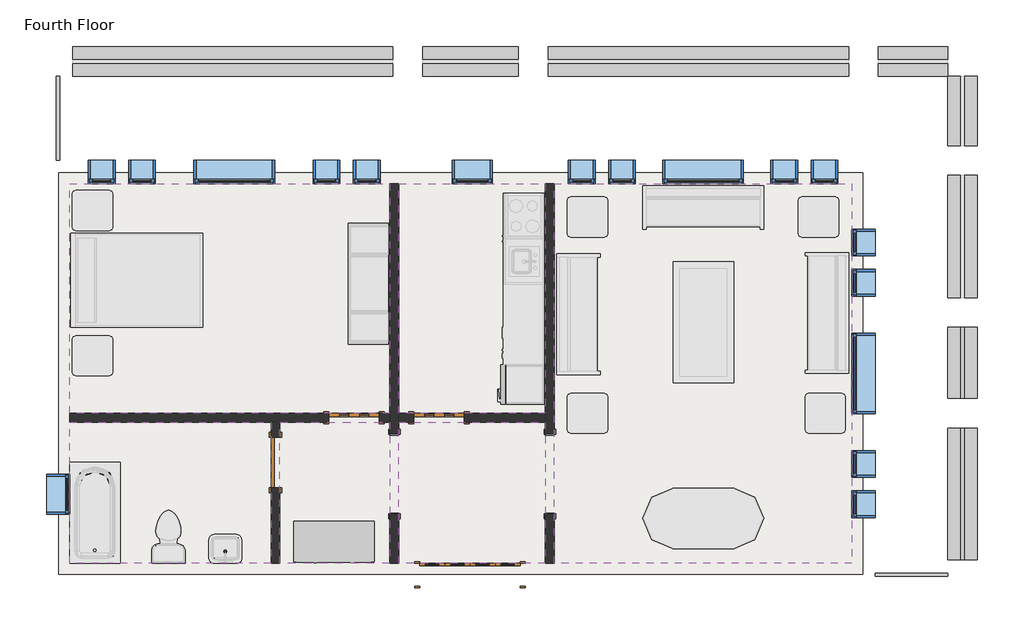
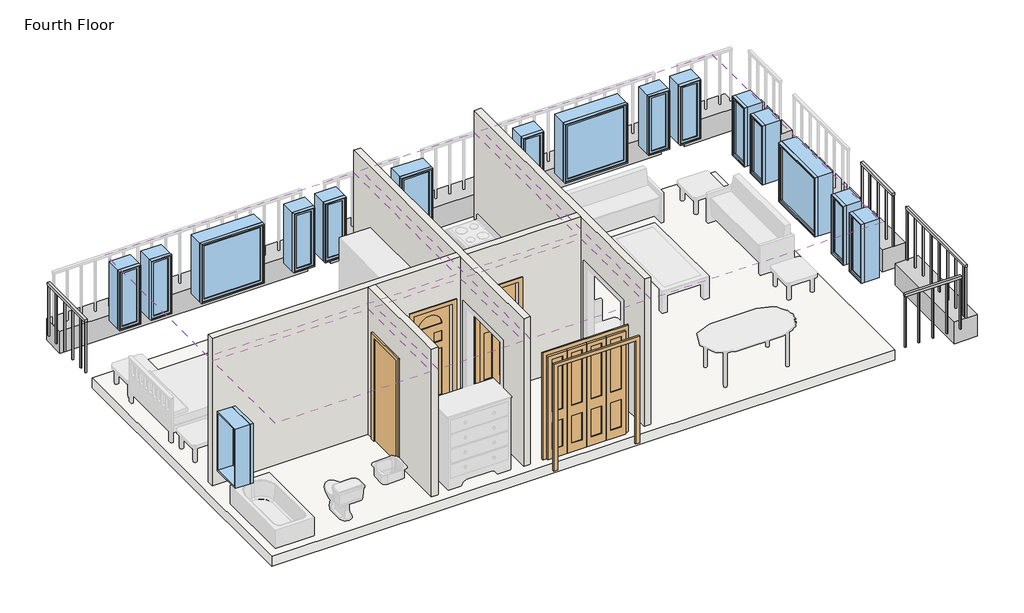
# One storey, part 1 of 2: 17 windows, 6 coverings, 4 doors, 4 railings, 4 walls, 2 beams, 1 slab.
"""IFC4 building model written with IfcOpenShell, lengths in millimetres."""

from ifc_helpers import new_model, si_unit, frame, origin, place, context, project, spatial, polyline, outline, extrude, faceted_brep, transform, mapped, element, save
from components import m_bifold_4_panel_1525_x_2134mm_1ddae71f, m_single_decorative_2_0762_x_2134mm_0d0af7cb, m_single_decorative_2_0762_x_2134mm_2fe67c8e, m_single_flush_0762_x_2134mm_0d89e411, m_fixed_0406_x_1220mm_57fee329, m_fixed_0406_x_1220mm_85c28f40, m_fixed_0610_x_1220mm_2c28ef1d, m_fixed_1220_x_1220mm_e08ff7af

model = new_model("IFC4")

# Units and contexts
model_context = context("Model", 3, world=origin())
ifc_project = project(units=[si_unit("LENGTHUNIT", "METRE", prefix="MILLI")], contexts=[model_context])

# Site, building, storey
site = spatial("IfcSite", under=ifc_project)
building = spatial("IfcBuilding", under=site)
storey = spatial("IfcBuildingStorey", under=building, Name="Fourth Floor", Elevation=9144.0)

# Beams
placement = place(None, origin())
element("IfcBeam", 1, ObjectType="M_Concrete-Rectangular Beam : 450 x 450", at=placement, inside=storey, context=model_context, shape_type="SweptSolid", body=[
    extrude(outline(polyline([(-1643.3416203, 4481.1188386), (-1643.3416203, 4031.1188386), (-2693.3416203, 4031.1188386), (-2693.3416203, 4481.1188386), (-1643.3416203, 4481.1188386)])), frame((0.0, 0.0, 8694.0), z_axis=(0.0, 0.0, 1.0), x_axis=(1.0, 0.0, 0.0)), (0.0, 0.0, 1.0), 450.0),
    extrude(outline(polyline([(-14885.3416203, 4031.1188386), (-14885.3416203, 4481.1188386), (-10043.3416203, 4481.1188386), (-10043.3416203, 4031.1188386), (-14885.3416203, 4031.1188386)])), frame((0.0, 0.0, 8694.0), z_axis=(0.0, 0.0, 1.0), x_axis=(1.0, 0.0, 0.0)), (0.0, 0.0, 1.0), 450.0),
    extrude(outline(polyline([(-3143.3416203, 4481.1188386), (-3143.3416203, 4031.1188386), (-7693.3416203, 4031.1188386), (-7693.3416203, 4481.1188386), (-3143.3416203, 4481.1188386)])), frame((0.0, 0.0, 8694.0), z_axis=(0.0, 0.0, 1.0), x_axis=(1.0, 0.0, 0.0)), (0.0, 0.0, 1.0), 450.0),
    extrude(outline(polyline([(-8143.3416203, 4481.1188386), (-8143.3416203, 4031.1188386), (-9593.3416203, 4031.1188386), (-9593.3416203, 4481.1188386), (-8143.3416203, 4481.1188386)])), frame((0.0, 0.0, 8694.0), z_axis=(0.0, 0.0, 1.0), x_axis=(1.0, 0.0, 0.0)), (0.0, 0.0, 1.0), 450.0),
])
element("IfcBeam", 2, ObjectType="M_Concrete-Rectangular Beam : 450 x 450", at=placement, inside=storey, context=model_context, shape_type="SweptSolid", body=[
    extrude(outline(polyline([(-1643.3416203, 4031.1188386), (-1193.3416203, 4031.1188386), (-1193.3416203, 2981.1188386), (-1643.3416203, 2981.1188386), (-1643.3416203, 4031.1188386)])), frame((0.0, 0.0, 8694.0), z_axis=(0.0, 0.0, 1.0), x_axis=(1.0, 0.0, 0.0)), (0.0, 0.0, 1.0), 450.0),
    extrude(outline(polyline([(-1193.3416203, -3289.8811614), (-1643.3416203, -3289.8811614), (-1643.3416203, -1295.3811614), (-1193.3416203, -1295.3811614), (-1193.3416203, -3289.8811614)])), frame((0.0, 0.0, 8694.0), z_axis=(0.0, 0.0, 1.0), x_axis=(1.0, 0.0, 0.0)), (0.0, 0.0, 1.0), 450.0),
    extrude(outline(polyline([(-1643.3416203, 2531.1188386), (-1193.3416203, 2531.1188386), (-1193.3416203, 681.1188386), (-1643.3416203, 681.1188386), (-1643.3416203, 2531.1188386)])), frame((0.0, 0.0, 8694.0), z_axis=(0.0, 0.0, 1.0), x_axis=(1.0, 0.0, 0.0)), (0.0, 0.0, 1.0), 450.0),
    extrude(outline(polyline([(-1643.3416203, 231.1188386), (-1193.3416203, 231.1188386), (-1193.3416203, -845.3811614), (-1643.3416203, -845.3811614), (-1643.3416203, 231.1188386)])), frame((0.0, 0.0, 8694.0), z_axis=(0.0, 0.0, 1.0), x_axis=(1.0, 0.0, 0.0)), (0.0, 0.0, 1.0), 450.0),
])

# Coverings
element("IfcCovering", 3, ObjectType="Plain", at=placement, inside=storey, context=model_context, shape_type="SweptSolid", body=[
    extrude(outline(polyline([(-14935.3416203, 2406.1188386), (-10086.8416203, 2406.1188386), (-10086.8416203, -1070.3811614), (-14935.3416203, -1070.3811614), (-14935.3416203, 2406.1188386)])), frame((0.0, 0.0, 11734.0), z_axis=(0.0, 0.0, 1.0), x_axis=(1.0, 0.0, 0.0)), (0.0, 0.0, 1.0), 57.0),
])
element("IfcCovering", 4, ObjectType="Plain", at=placement, inside=storey, context=model_context, shape_type="SweptSolid", body=[
    extrude(outline(polyline([(-9951.3416203, -1070.3811614), (-9951.3416203, 2406.1188386), (-7733.0916203, 2406.1188386), (-7733.0916203, -1070.3811614), (-9951.3416203, -1070.3811614)])), frame((0.0, 0.0, 11734.0), z_axis=(0.0, 0.0, 1.0), x_axis=(1.0, 0.0, 0.0)), (0.0, 0.0, 1.0), 57.0),
])
element("IfcCovering", 5, ObjectType="Plain", at=placement, inside=storey, context=model_context, shape_type="SweptSolid", body=[
    extrude(outline(polyline([(-7597.5916203, -3339.8811614), (-7597.5916203, 2406.1188386), (-3093.3416203, 2406.1188386), (-3093.3416203, -3339.8811614), (-7597.5916203, -3339.8811614)])), frame((0.0, 0.0, 11734.0), z_axis=(0.0, 0.0, 1.0), x_axis=(1.0, 0.0, 0.0)), (0.0, 0.0, 1.0), 57.0),
])
element("IfcCovering", 6, ObjectType="Plain", at=placement, inside=storey, context=model_context, shape_type="SweptSolid", body=[
    extrude(outline(polyline([(-7733.0916203, -3339.8811614), (-9951.3416203, -3339.8811614), (-9951.3416203, -1205.8811614), (-7733.0916203, -1205.8811614), (-7733.0916203, -3339.8811614)])), frame((0.0, 0.0, 11734.0), z_axis=(0.0, 0.0, 1.0), x_axis=(1.0, 0.0, 0.0)), (0.0, 0.0, 1.0), 57.0),
])
element("IfcCovering", 7, ObjectType="Plain", at=placement, inside=storey, context=model_context, shape_type="SweptSolid", body=[
    extrude(outline(polyline([(-11887.3416203, -1205.8811614), (-11887.3416203, -3339.8811614), (-14935.3416203, -3339.8811614), (-14935.3416203, -1205.8811614), (-11887.3416203, -1205.8811614)])), frame((0.0, 0.0, 11734.0), z_axis=(0.0, 0.0, 1.0), x_axis=(1.0, 0.0, 0.0)), (0.0, 0.0, 1.0), 57.0),
])
element("IfcCovering", 8, ObjectType="Plain", at=placement, inside=storey, context=model_context, shape_type="SweptSolid", body=[
    extrude(outline(polyline([(-10086.8416203, -3339.8811614), (-11751.8416203, -3339.8811614), (-11751.8416203, -1205.8811614), (-10086.8416203, -1205.8811614), (-10086.8416203, -3339.8811614)])), frame((0.0, 0.0, 11734.0), z_axis=(0.0, 0.0, 1.0), x_axis=(1.0, 0.0, 0.0)), (0.0, 0.0, 1.0), 57.0),
])

# Doors
m_bifold_4_panel_1525_x_2134mm_shape = m_bifold_4_panel_1525_x_2134mm_1ddae71f(model_context)
element("IfcDoor", 9, ObjectType="M_Bifold-4 Panel : 1525 x 2134mm", at=placement, inside=storey, context=model_context, shape_type="MappedRepresentation", body=[
    mapped(m_bifold_4_panel_1525_x_2134mm_shape, transform((-8876.0916203, -3514.8811614, 9144.0), x_axis=(1.0, 0.0, 0.0), y_axis=(0.0, 1.0, 0.0), z_axis=(0.0, 0.0, 1.0))),
])
m_single_decorative_2_0762_x_2134mm_shape = m_single_decorative_2_0762_x_2134mm_0d0af7cb(model_context)
element("IfcDoor", 10, ObjectType="M_Single-Decorative 2 : 0762 x 2134mm", at=placement, inside=storey, context=model_context, shape_type="MappedRepresentation", body=[
    mapped(m_single_decorative_2_0762_x_2134mm_shape, transform((-9342.3416203, -1138.1311614, 9144.0), x_axis=(-1.0, 0.0, 0.0), y_axis=(0.0, -1.0, 0.0), z_axis=(0.0, 0.0, 1.0))),
])
m_single_decorative_2_0762_x_2134mm_2_shape = m_single_decorative_2_0762_x_2134mm_2fe67c8e(model_context)
element("IfcDoor", 11, ObjectType="M_Single-Decorative 2 : 0762 x 2134mm", at=placement, inside=storey, context=model_context, shape_type="MappedRepresentation", body=[
    mapped(m_single_decorative_2_0762_x_2134mm_2_shape, transform((-10629.0916203, -1138.1311614, 9144.0), x_axis=(1.0, 0.0, 0.0), y_axis=(0.0, 1.0, 0.0), z_axis=(0.0, 0.0, 1.0))),
])
m_single_flush_0762_x_2134mm_shape = m_single_flush_0762_x_2134mm_0d89e411(model_context)
element("IfcDoor", 12, ObjectType="M_Single-Flush : 0762 x 2134mm", at=placement, inside=storey, context=model_context, shape_type="MappedRepresentation", body=[
    mapped(m_single_flush_0762_x_2134mm_shape, transform((-11819.5916203, -1815.8811614, 9144.0), x_axis=(0.0, 1.0, 0.0), y_axis=(-1.0, 0.0, 0.0), z_axis=(0.0, 0.0, 1.0))),
])

# Railings
element("IfcRailing", 13, ObjectType="1100mm", at=placement, inside=storey, context=model_context, shape_type="SweptSolid", body=[
    extrude(outline(polyline([(-1443.3416203, 231.1188386), (-1393.3416203, 231.1188386), (-1393.3416203, -845.3811614), (-1443.3416203, -845.3811614), (-1443.3416203, 231.1188386)])), frame((0.0, 0.0, 10194.0), z_axis=(0.0, 0.0, 1.0), x_axis=(1.0, 0.0, 0.0)), (0.0, 0.0, 1.0), 50.0),
    extrude(outline(polyline([(-1430.8416203, -581.3811614), (-1405.8416203, -581.3811614), (-1405.8416203, -606.3811614), (-1430.8416203, -606.3811614), (-1430.8416203, -581.3811614)])), frame((0.0, 0.0, 9144.0), z_axis=(0.0, 0.0, 1.0), x_axis=(1.0, 0.0, 0.0)), (0.0, 0.0, 1.0), 1050.0),
    extrude(outline(polyline([(-1430.8416203, -306.3811614), (-1405.8416203, -306.3811614), (-1405.8416203, -331.3811614), (-1430.8416203, -331.3811614), (-1430.8416203, -306.3811614)])), frame((0.0, 0.0, 9144.0), z_axis=(0.0, 0.0, 1.0), x_axis=(1.0, 0.0, 0.0)), (0.0, 0.0, 1.0), 1050.0),
    extrude(outline(polyline([(-1430.8416203, -31.3811614), (-1405.8416203, -31.3811614), (-1405.8416203, -56.3811614), (-1430.8416203, -56.3811614), (-1430.8416203, -31.3811614)])), frame((0.0, 0.0, 9144.0), z_axis=(0.0, 0.0, 1.0), x_axis=(1.0, 0.0, 0.0)), (0.0, 0.0, 1.0), 1050.0),
    extrude(outline(polyline([(-1430.8416203, -820.3811614), (-1405.8416203, -820.3811614), (-1405.8416203, -845.3811614), (-1430.8416203, -845.3811614), (-1430.8416203, -820.3811614)])), frame((0.0, 0.0, 9144.0), z_axis=(0.0, 0.0, 1.0), x_axis=(1.0, 0.0, 0.0)), (0.0, 0.0, 1.0), 1050.0),
    extrude(outline(polyline([(-1430.8416203, 231.1188386), (-1405.8416203, 231.1188386), (-1405.8416203, 206.1188386), (-1430.8416203, 206.1188386), (-1430.8416203, 231.1188386)])), frame((0.0, 0.0, 9144.0), z_axis=(0.0, 0.0, 1.0), x_axis=(1.0, 0.0, 0.0)), (0.0, 0.0, 1.0), 1050.0),
])
element("IfcRailing", 14, ObjectType="1100mm", at=placement, inside=storey, context=model_context, shape_type="SweptSolid", body=[
    extrude(outline(polyline([(-1443.3416203, -1295.3811614), (-1393.3416203, -1295.3811614), (-1393.3416203, -3289.8811614), (-1443.3416203, -3289.8811614), (-1443.3416203, -1295.3811614)])), frame((0.0, 0.0, 10194.0), z_axis=(0.0, 0.0, 1.0), x_axis=(1.0, 0.0, 0.0)), (0.0, 0.0, 1.0), 50.0),
    extrude(outline(polyline([(-1430.8416203, -3207.8811614), (-1405.8416203, -3207.8811614), (-1405.8416203, -3232.8811614), (-1430.8416203, -3232.8811614), (-1430.8416203, -3207.8811614)])), frame((0.0, 0.0, 9144.0), z_axis=(0.0, 0.0, 1.0), x_axis=(1.0, 0.0, 0.0)), (0.0, 0.0, 1.0), 1050.0),
    extrude(outline(polyline([(-1430.8416203, -2932.8811614), (-1405.8416203, -2932.8811614), (-1405.8416203, -2957.8811614), (-1430.8416203, -2957.8811614), (-1430.8416203, -2932.8811614)])), frame((0.0, 0.0, 9144.0), z_axis=(0.0, 0.0, 1.0), x_axis=(1.0, 0.0, 0.0)), (0.0, 0.0, 1.0), 1050.0),
    extrude(outline(polyline([(-1430.8416203, -2657.8811614), (-1405.8416203, -2657.8811614), (-1405.8416203, -2682.8811614), (-1430.8416203, -2682.8811614), (-1430.8416203, -2657.8811614)])), frame((0.0, 0.0, 9144.0), z_axis=(0.0, 0.0, 1.0), x_axis=(1.0, 0.0, 0.0)), (0.0, 0.0, 1.0), 1050.0),
    extrude(outline(polyline([(-1430.8416203, -2382.8811614), (-1405.8416203, -2382.8811614), (-1405.8416203, -2407.8811614), (-1430.8416203, -2407.8811614), (-1430.8416203, -2382.8811614)])), frame((0.0, 0.0, 9144.0), z_axis=(0.0, 0.0, 1.0), x_axis=(1.0, 0.0, 0.0)), (0.0, 0.0, 1.0), 1050.0),
    extrude(outline(polyline([(-1430.8416203, -2107.8811614), (-1405.8416203, -2107.8811614), (-1405.8416203, -2132.8811614), (-1430.8416203, -2132.8811614), (-1430.8416203, -2107.8811614)])), frame((0.0, 0.0, 9144.0), z_axis=(0.0, 0.0, 1.0), x_axis=(1.0, 0.0, 0.0)), (0.0, 0.0, 1.0), 1050.0),
    extrude(outline(polyline([(-1430.8416203, -1832.8811614), (-1405.8416203, -1832.8811614), (-1405.8416203, -1857.8811614), (-1430.8416203, -1857.8811614), (-1430.8416203, -1832.8811614)])), frame((0.0, 0.0, 9144.0), z_axis=(0.0, 0.0, 1.0), x_axis=(1.0, 0.0, 0.0)), (0.0, 0.0, 1.0), 1050.0),
    extrude(outline(polyline([(-1430.8416203, -1557.8811614), (-1405.8416203, -1557.8811614), (-1405.8416203, -1582.8811614), (-1430.8416203, -1582.8811614), (-1430.8416203, -1557.8811614)])), frame((0.0, 0.0, 9144.0), z_axis=(0.0, 0.0, 1.0), x_axis=(1.0, 0.0, 0.0)), (0.0, 0.0, 1.0), 1050.0),
    extrude(outline(polyline([(-1430.8416203, -3264.8811614), (-1405.8416203, -3264.8811614), (-1405.8416203, -3289.8811614), (-1430.8416203, -3289.8811614), (-1430.8416203, -3264.8811614)])), frame((0.0, 0.0, 9144.0), z_axis=(0.0, 0.0, 1.0), x_axis=(1.0, 0.0, 0.0)), (0.0, 0.0, 1.0), 1050.0),
    extrude(outline(polyline([(-1430.8416203, -1295.3811614), (-1405.8416203, -1295.3811614), (-1405.8416203, -1320.3811614), (-1430.8416203, -1320.3811614), (-1430.8416203, -1295.3811614)])), frame((0.0, 0.0, 9144.0), z_axis=(0.0, 0.0, 1.0), x_axis=(1.0, 0.0, 0.0)), (0.0, 0.0, 1.0), 1050.0),
])
element("IfcRailing", 15, ObjectType="1100mm", at=placement, inside=storey, context=model_context, shape_type="SweptSolid", body=[
    extrude(outline(polyline([(-1643.3416203, -3489.8811614), (-1643.3416203, -3539.8811614), (-2743.3416203, -3539.8811614), (-2743.3416203, -3489.8811614), (-1643.3416203, -3489.8811614)])), frame((0.0, 0.0, 10194.0), z_axis=(0.0, 0.0, 1.0), x_axis=(1.0, 0.0, 0.0)), (0.0, 0.0, 1.0), 50.0),
    extrude(outline(polyline([(-2455.8416203, -3502.3811614), (-2455.8416203, -3527.3811614), (-2480.8416203, -3527.3811614), (-2480.8416203, -3502.3811614), (-2455.8416203, -3502.3811614)])), frame((0.0, 0.0, 9144.0), z_axis=(0.0, 0.0, 1.0), x_axis=(1.0, 0.0, 0.0)), (0.0, 0.0, 1.0), 1050.0),
    extrude(outline(polyline([(-2180.8416203, -3502.3811614), (-2180.8416203, -3527.3811614), (-2205.8416203, -3527.3811614), (-2205.8416203, -3502.3811614), (-2180.8416203, -3502.3811614)])), frame((0.0, 0.0, 9144.0), z_axis=(0.0, 0.0, 1.0), x_axis=(1.0, 0.0, 0.0)), (0.0, 0.0, 1.0), 1050.0),
    extrude(outline(polyline([(-1905.8416203, -3502.3811614), (-1905.8416203, -3527.3811614), (-1930.8416203, -3527.3811614), (-1930.8416203, -3502.3811614), (-1905.8416203, -3502.3811614)])), frame((0.0, 0.0, 9144.0), z_axis=(0.0, 0.0, 1.0), x_axis=(1.0, 0.0, 0.0)), (0.0, 0.0, 1.0), 1050.0),
    extrude(outline(polyline([(-2718.3416203, -3502.3811614), (-2718.3416203, -3527.3811614), (-2743.3416203, -3527.3811614), (-2743.3416203, -3502.3811614), (-2718.3416203, -3502.3811614)])), frame((0.0, 0.0, 9144.0), z_axis=(0.0, 0.0, 1.0), x_axis=(1.0, 0.0, 0.0)), (0.0, 0.0, 1.0), 1050.0),
    extrude(outline(polyline([(-1643.3416203, -3502.3811614), (-1643.3416203, -3527.3811614), (-1668.3416203, -3527.3811614), (-1668.3416203, -3502.3811614), (-1643.3416203, -3502.3811614)])), frame((0.0, 0.0, 9144.0), z_axis=(0.0, 0.0, 1.0), x_axis=(1.0, 0.0, 0.0)), (0.0, 0.0, 1.0), 1050.0),
])
element("IfcRailing", 16, ObjectType="1100mm", at=placement, inside=storey, context=model_context, shape_type="SweptSolid", body=[
    extrude(outline(polyline([(-15135.3416203, 4031.1188386), (-15085.3416203, 4031.1188386), (-15085.3416203, 2756.1188386), (-15135.3416203, 2756.1188386), (-15135.3416203, 4031.1188386)])), frame((0.0, 0.0, 10194.0), z_axis=(0.0, 0.0, 1.0), x_axis=(1.0, 0.0, 0.0)), (0.0, 0.0, 1.0), 50.0),
    extrude(outline(polyline([(-15122.8416203, 2943.6188386), (-15097.8416203, 2943.6188386), (-15097.8416203, 2918.6188386), (-15122.8416203, 2918.6188386), (-15122.8416203, 2943.6188386)])), frame((0.0, 0.0, 9144.0), z_axis=(0.0, 0.0, 1.0), x_axis=(1.0, 0.0, 0.0)), (0.0, 0.0, 1.0), 1050.0),
    extrude(outline(polyline([(-15122.8416203, 3218.6188386), (-15097.8416203, 3218.6188386), (-15097.8416203, 3193.6188386), (-15122.8416203, 3193.6188386), (-15122.8416203, 3218.6188386)])), frame((0.0, 0.0, 9144.0), z_axis=(0.0, 0.0, 1.0), x_axis=(1.0, 0.0, 0.0)), (0.0, 0.0, 1.0), 1050.0),
    extrude(outline(polyline([(-15122.8416203, 3493.6188386), (-15097.8416203, 3493.6188386), (-15097.8416203, 3468.6188386), (-15122.8416203, 3468.6188386), (-15122.8416203, 3493.6188386)])), frame((0.0, 0.0, 9144.0), z_axis=(0.0, 0.0, 1.0), x_axis=(1.0, 0.0, 0.0)), (0.0, 0.0, 1.0), 1050.0),
    extrude(outline(polyline([(-15122.8416203, 3768.6188386), (-15097.8416203, 3768.6188386), (-15097.8416203, 3743.6188386), (-15122.8416203, 3743.6188386), (-15122.8416203, 3768.6188386)])), frame((0.0, 0.0, 9144.0), z_axis=(0.0, 0.0, 1.0), x_axis=(1.0, 0.0, 0.0)), (0.0, 0.0, 1.0), 1050.0),
    extrude(outline(polyline([(-15122.8416203, 2781.1188386), (-15097.8416203, 2781.1188386), (-15097.8416203, 2756.1188386), (-15122.8416203, 2756.1188386), (-15122.8416203, 2781.1188386)])), frame((0.0, 0.0, 9144.0), z_axis=(0.0, 0.0, 1.0), x_axis=(1.0, 0.0, 0.0)), (0.0, 0.0, 1.0), 1050.0),
    extrude(outline(polyline([(-15122.8416203, 4031.1188386), (-15097.8416203, 4031.1188386), (-15097.8416203, 4006.1188386), (-15122.8416203, 4006.1188386), (-15122.8416203, 4031.1188386)])), frame((0.0, 0.0, 9144.0), z_axis=(0.0, 0.0, 1.0), x_axis=(1.0, 0.0, 0.0)), (0.0, 0.0, 1.0), 1050.0),
])

# Slab
element("IfcSlab", 17, ObjectType="160mm Concrete With 50mm Metal Deck", at=placement, inside=storey, context=model_context, shape_type="SweptSolid", body=[
    extrude(outline(polyline([(-2928.3416203, 2571.1188386), (-2928.3416203, -3504.8811614), (-15100.3416203, -3504.8811614), (-15100.3416203, 2571.1188386), (-2928.3416203, 2571.1188386)])), frame((0.0, 0.0, 8934.0), z_axis=(0.0, 0.0, 1.0), x_axis=(1.0, 0.0, 0.0)), (0.0, 0.0, 1.0), 210.0),
])

# Walls
element("IfcWall", 18, ObjectType="Interior - 135mm Partition (2-hr)", at=placement, inside=storey, context=model_context, shape_type="Brep", body=[
    faceted_brep([(-7733.0916203, 2406.1188386, 9144.0), (-7733.0916203, -1070.3811614, 9144.0), (-7733.0916203, -1205.8811614, 9144.0), (-7733.0916203, -1380.8811614, 9144.0), (-7733.0916203, -1380.8811614, 11278.0), (-7733.0916203, -2600.8811614, 11278.0), (-7733.0916203, -2600.8811614, 9144.0), (-7733.0916203, -3339.8811614, 9144.0), (-7733.0916203, -3339.8811614, 12192.0), (-7733.0916203, -1205.8811614, 12192.0), (-7733.0916203, -1070.3811614, 12192.0), (-7733.0916203, 2406.1188386, 12192.0), (-7597.5916203, -1380.8811614, 11278.0), (-7597.5916203, -1380.8811614, 9144.0), (-7597.5916203, 2406.1188386, 9144.0), (-7597.5916203, 2406.1188386, 12192.0), (-7597.5916203, -3339.8811614, 12192.0), (-7597.5916203, -3339.8811614, 9144.0), (-7597.5916203, -2600.8811614, 9144.0), (-7597.5916203, -2600.8811614, 11278.0)], [[[0, 1, 2, 3, 4, 5, 6, 7, 8, 9, 10, 11]], [[12, 13, 14, 15, 16, 17, 18, 19]], [[18, 17, 7, 6]], [[14, 13, 3, 2, 1, 0]], [[11, 10, 9, 8, 16, 15]], [[6, 5, 19, 18]], [[4, 3, 13, 12]], [[5, 4, 12, 19]], [[0, 11, 15, 14]], [[8, 7, 17, 16]]]),
])
element("IfcWall", 19, ObjectType="Interior - 135mm Partition (2-hr)", at=placement, inside=storey, context=model_context, shape_type="Brep", body=[
    faceted_brep([(-10086.8416203, -2600.8811614, 11278.0), (-10086.8416203, -2600.8811614, 9144.0), (-10086.8416203, -3339.8811614, 9144.0), (-10086.8416203, -3339.8811614, 12192.0), (-10086.8416203, -1205.8811614, 12192.0), (-10086.8416203, -1070.3811614, 12192.0), (-10086.8416203, 2406.1188386, 12192.0), (-10086.8416203, 2406.1188386, 9144.0), (-10086.8416203, -1070.3811614, 9144.0), (-10086.8416203, -1205.8811614, 9144.0), (-10086.8416203, -1380.8811614, 9144.0), (-10086.8416203, -1380.8811614, 11278.0), (-9951.3416203, -3339.8811614, 9144.0), (-9951.3416203, -2600.8811614, 9144.0), (-9951.3416203, -2600.8811614, 11278.0), (-9951.3416203, -1380.8811614, 11278.0), (-9951.3416203, -1380.8811614, 9144.0), (-9951.3416203, -1205.8811614, 9144.0), (-9951.3416203, -1070.3811614, 9144.0), (-9951.3416203, 2406.1188386, 9144.0), (-9951.3416203, 2406.1188386, 12192.0), (-9951.3416203, -1070.3811614, 12192.0), (-9951.3416203, -1205.8811614, 12192.0), (-9951.3416203, -3339.8811614, 12192.0)], [[[0, 1, 2, 3, 4, 5, 6, 7, 8, 9, 10, 11]], [[12, 13, 14, 15, 16, 17, 18, 19, 20, 21, 22, 23]], [[2, 1, 13, 12]], [[10, 9, 8, 7, 19, 18, 17, 16]], [[6, 5, 4, 3, 23, 22, 21, 20]], [[16, 15, 11, 10]], [[14, 13, 1, 0]], [[15, 14, 0, 11]], [[7, 6, 20, 19]], [[3, 2, 12, 23]]]),
])
element("IfcWall", 20, ObjectType="Interior - 135mm Partition (2-hr)", at=placement, inside=storey, context=model_context, shape_type="Brep", body=[
    faceted_brep([(-7733.0916203, -1205.8811614, 9144.0), (-7733.0916203, -1205.8811614, 12192.0), (-9951.3416203, -1205.8811614, 12192.0), (-9951.3416203, -1205.8811614, 9144.0), (-9723.3416203, -1205.8811614, 9144.0), (-9723.3416203, -1205.8811614, 11278.0), (-8961.3416203, -1205.8811614, 11278.0), (-8961.3416203, -1205.8811614, 9144.0), (-7733.0916203, -1070.3811614, 12192.0), (-7733.0916203, -1070.3811614, 9144.0), (-8961.3416203, -1070.3811614, 9144.0), (-8961.3416203, -1070.3811614, 11278.0), (-9723.3416203, -1070.3811614, 11278.0), (-9723.3416203, -1070.3811614, 9144.0), (-9951.3416203, -1070.3811614, 9144.0), (-9951.3416203, -1070.3811614, 12192.0)], [[[0, 1, 2, 3, 4, 5, 6, 7]], [[8, 9, 10, 11, 12, 13, 14, 15]], [[9, 0, 7, 10]], [[13, 4, 3, 14]], [[1, 8, 15, 2]], [[1, 0, 9, 8]], [[3, 2, 15, 14]], [[5, 4, 13, 12]], [[6, 5, 12, 11]], [[7, 6, 11, 10]]]),
    faceted_brep([(-10248.0916203, -1205.8811614, 11278.0), (-10248.0916203, -1205.8811614, 9144.0), (-10086.8416203, -1205.8811614, 9144.0), (-10086.8416203, -1205.8811614, 12192.0), (-11751.8416203, -1205.8811614, 12192.0), (-11887.3416203, -1205.8811614, 12192.0), (-14935.3416203, -1205.8811614, 12192.0), (-14935.3416203, -1205.8811614, 9144.0), (-11887.3416203, -1205.8811614, 9144.0), (-11751.8416203, -1205.8811614, 9144.0), (-11010.0916203, -1205.8811614, 9144.0), (-11010.0916203, -1205.8811614, 11278.0), (-10248.0916203, -1070.3811614, 9144.0), (-10248.0916203, -1070.3811614, 11278.0), (-11010.0916203, -1070.3811614, 11278.0), (-11010.0916203, -1070.3811614, 9144.0), (-14935.3416203, -1070.3811614, 9144.0), (-14935.3416203, -1070.3811614, 12192.0), (-10086.8416203, -1070.3811614, 12192.0), (-10086.8416203, -1070.3811614, 9144.0)], [[[0, 1, 2, 3, 4, 5, 6, 7, 8, 9, 10, 11]], [[12, 13, 14, 15, 16, 17, 18, 19]], [[1, 12, 19, 2]], [[15, 10, 9, 8, 7, 16]], [[17, 6, 5, 4, 3, 18]], [[3, 2, 19, 18]], [[13, 12, 1, 0]], [[14, 13, 0, 11]], [[15, 14, 11, 10]], [[7, 6, 17, 16]]]),
])
element("IfcWall", 21, ObjectType="Interior - 135mm Partition (2-hr)", at=placement, inside=storey, context=model_context, shape_type="SweptSolid", body=[
    extrude(outline(polyline([(-1205.8811614, 9144.0), (-1434.8811614, 9144.0), (-1434.8811614, 11278.0), (-2196.8811614, 11278.0), (-2196.8811614, 9144.0), (-3339.8811614, 9144.0), (-3339.8811614, 12192.0), (-1205.8811614, 12192.0), (-1205.8811614, 9144.0)])), frame((-11887.3416203, 0.0, 0.0), z_axis=(1.0, 0.0, 0.0), x_axis=(0.0, 1.0, 0.0)), (0.0, 0.0, 1.0), 135.5),
])

# Windows
m_fixed_0406_x_1220mm_shape = m_fixed_0406_x_1220mm_57fee329(model_context)
element("IfcWindow", 22, ObjectType="M_Fixed : 0406 x 1220mm", at=placement, inside=storey, context=model_context, shape_type="MappedRepresentation", body=[
    mapped(m_fixed_0406_x_1220mm_shape, transform((-14450.3416203, 2594.1188386, 9144.0), x_axis=(-1.0, 0.0, 0.0), y_axis=(0.0, -1.0, 0.0), z_axis=(0.0, 0.0, 1.0))),
])
element("IfcWindow", 23, ObjectType="M_Fixed : 0406 x 1220mm", at=placement, inside=storey, context=model_context, shape_type="MappedRepresentation", body=[
    mapped(m_fixed_0406_x_1220mm_shape, transform((-13840.3416203, 2594.1188386, 9144.0), x_axis=(-1.0, 0.0, 0.0), y_axis=(0.0, -1.0, 0.0), z_axis=(0.0, 0.0, 1.0))),
])
element("IfcWindow", 24, ObjectType="M_Fixed : 0406 x 1220mm", at=placement, inside=storey, context=model_context, shape_type="MappedRepresentation", body=[
    mapped(m_fixed_0406_x_1220mm_shape, transform((-7183.3416203, 2594.1188386, 9144.0), x_axis=(-1.0, 0.0, 0.0), y_axis=(0.0, -1.0, 0.0), z_axis=(0.0, 0.0, 1.0))),
])
element("IfcWindow", 25, ObjectType="M_Fixed : 0406 x 1220mm", at=placement, inside=storey, context=model_context, shape_type="MappedRepresentation", body=[
    mapped(m_fixed_0406_x_1220mm_shape, transform((-6573.3416203, 2594.1188386, 9144.0), x_axis=(-1.0, 0.0, 0.0), y_axis=(0.0, -1.0, 0.0), z_axis=(0.0, 0.0, 1.0))),
])
element("IfcWindow", 26, ObjectType="M_Fixed : 0406 x 1220mm", at=placement, inside=storey, context=model_context, shape_type="MappedRepresentation", body=[
    mapped(m_fixed_0406_x_1220mm_shape, transform((-2905.3416203, 1514.1188386, 9144.0), x_axis=(0.0, 1.0, 0.0), y_axis=(-1.0, 0.0, 0.0), z_axis=(0.0, 0.0, 1.0))),
])
element("IfcWindow", 27, ObjectType="M_Fixed : 0406 x 1220mm", at=placement, inside=storey, context=model_context, shape_type="MappedRepresentation", body=[
    mapped(m_fixed_0406_x_1220mm_shape, transform((-2905.3416203, 904.1188386, 9144.0), x_axis=(0.0, 1.0, 0.0), y_axis=(-1.0, 0.0, 0.0), z_axis=(0.0, 0.0, 1.0))),
])
m_fixed_0406_x_1220mm_2_shape = m_fixed_0406_x_1220mm_85c28f40(model_context)
element("IfcWindow", 28, ObjectType="M_Fixed : 0406 x 1220mm", at=placement, inside=storey, context=model_context, shape_type="MappedRepresentation", body=[
    mapped(m_fixed_0406_x_1220mm_2_shape, transform((-10436.3416203, 2594.1188386, 9144.0), x_axis=(1.0, 0.0, 0.0), y_axis=(0.0, 1.0, 0.0), z_axis=(0.0, 0.0, 1.0))),
])
element("IfcWindow", 29, ObjectType="M_Fixed : 0406 x 1220mm", at=placement, inside=storey, context=model_context, shape_type="MappedRepresentation", body=[
    mapped(m_fixed_0406_x_1220mm_2_shape, transform((-11046.3416203, 2594.1188386, 9144.0), x_axis=(1.0, 0.0, 0.0), y_axis=(0.0, 1.0, 0.0), z_axis=(0.0, 0.0, 1.0))),
])
element("IfcWindow", 30, ObjectType="M_Fixed : 0406 x 1220mm", at=placement, inside=storey, context=model_context, shape_type="MappedRepresentation", body=[
    mapped(m_fixed_0406_x_1220mm_2_shape, transform((-3507.5916203, 2594.1188386, 9144.0), x_axis=(1.0, 0.0, 0.0), y_axis=(0.0, 1.0, 0.0), z_axis=(0.0, 0.0, 1.0))),
])
element("IfcWindow", 31, ObjectType="M_Fixed : 0406 x 1220mm", at=placement, inside=storey, context=model_context, shape_type="MappedRepresentation", body=[
    mapped(m_fixed_0406_x_1220mm_2_shape, transform((-4117.5916203, 2594.1188386, 9144.0), x_axis=(1.0, 0.0, 0.0), y_axis=(0.0, 1.0, 0.0), z_axis=(0.0, 0.0, 1.0))),
])
element("IfcWindow", 32, ObjectType="M_Fixed : 0406 x 1220mm", at=placement, inside=storey, context=model_context, shape_type="MappedRepresentation", body=[
    mapped(m_fixed_0406_x_1220mm_2_shape, transform((-2905.3416203, -2447.8811614, 9144.0), x_axis=(0.0, -1.0, 0.0), y_axis=(1.0, 0.0, 0.0), z_axis=(0.0, 0.0, 1.0))),
])
element("IfcWindow", 33, ObjectType="M_Fixed : 0406 x 1220mm", at=placement, inside=storey, context=model_context, shape_type="MappedRepresentation", body=[
    mapped(m_fixed_0406_x_1220mm_2_shape, transform((-2905.3416203, -1837.8811614, 9144.0), x_axis=(0.0, -1.0, 0.0), y_axis=(1.0, 0.0, 0.0), z_axis=(0.0, 0.0, 1.0))),
])
m_fixed_0610_x_1220mm_shape = m_fixed_0610_x_1220mm_2c28ef1d(model_context)
element("IfcWindow", 34, ObjectType="M_Fixed : 0610 x 1220mm", at=placement, inside=storey, context=model_context, shape_type="MappedRepresentation", body=[
    mapped(m_fixed_0610_x_1220mm_shape, transform((-8842.1916203, 2594.1188386, 9144.0), x_axis=(-1.0, 0.0, 0.0), y_axis=(0.0, -1.0, 0.0), z_axis=(0.0, 0.0, 1.0))),
])
element("IfcWindow", 35, ObjectType="M_Fixed : 0610 x 1220mm", at=placement, inside=storey, context=model_context, shape_type="MappedRepresentation", body=[
    mapped(m_fixed_0610_x_1220mm_shape, transform((-15123.3416203, -2294.8811614, 9144.0), x_axis=(0.0, -1.0, 0.0), y_axis=(1.0, 0.0, 0.0), z_axis=(0.0, 0.0, 1.0))),
])
m_fixed_1220_x_1220mm_shape = m_fixed_1220_x_1220mm_e08ff7af(model_context)
element("IfcWindow", 36, ObjectType="M_Fixed : 1220 x 1220mm", at=placement, inside=storey, context=model_context, shape_type="MappedRepresentation", body=[
    mapped(m_fixed_1220_x_1220mm_shape, transform((-12443.3416203, 2594.1188386, 9144.0), x_axis=(-1.0, 0.0, 0.0), y_axis=(0.0, -1.0, 0.0), z_axis=(0.0, 0.0, 1.0))),
])
element("IfcWindow", 37, ObjectType="M_Fixed : 1220 x 1220mm", at=placement, inside=storey, context=model_context, shape_type="MappedRepresentation", body=[
    mapped(m_fixed_1220_x_1220mm_shape, transform((-5345.4666203, 2594.1188386, 9144.0), x_axis=(-1.0, 0.0, 0.0), y_axis=(0.0, -1.0, 0.0), z_axis=(0.0, 0.0, 1.0))),
])
element("IfcWindow", 38, ObjectType="M_Fixed : 1220 x 1220mm", at=placement, inside=storey, context=model_context, shape_type="MappedRepresentation", body=[
    mapped(m_fixed_1220_x_1220mm_shape, transform((-2905.3416203, -466.8811614, 9144.0), x_axis=(0.0, 1.0, 0.0), y_axis=(-1.0, 0.0, 0.0), z_axis=(0.0, 0.0, 1.0))),
])

save(model, "model.ifc")
